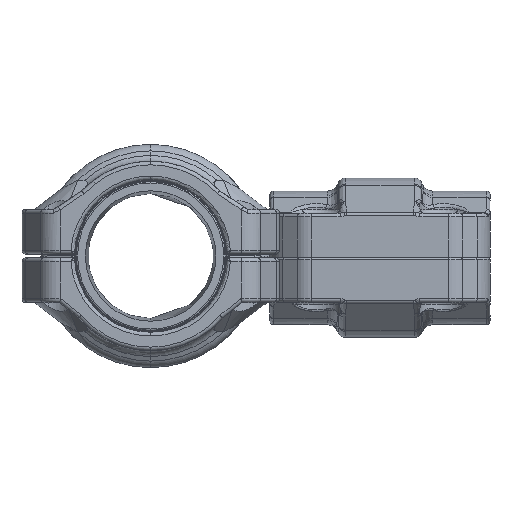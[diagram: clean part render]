
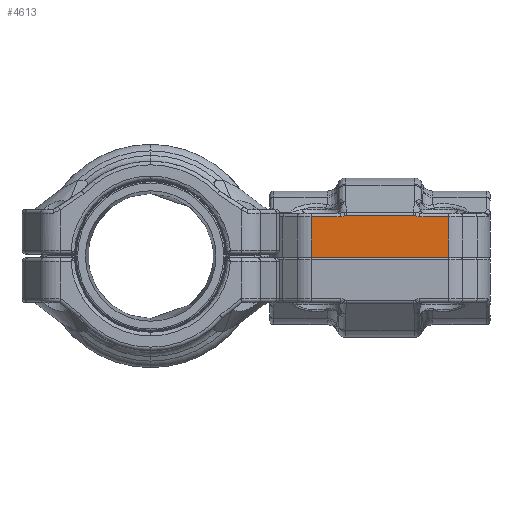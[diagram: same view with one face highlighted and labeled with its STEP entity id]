
A CAD part, left-side view. The second image highlights one B-rep face of the part: STEP entity #4613.
In plain terms, the highlighted planar face has unit normal (-1, 0, 0).
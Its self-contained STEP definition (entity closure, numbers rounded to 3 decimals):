
#787=PLANE('',#33667);
#2799=B_SPLINE_CURVE_WITH_KNOTS('',3,(#70740,#70741,#70742,#70743,#70744,
#70745),.UNSPECIFIED.,.F.,.F.,(4,1,1,4),(0.,0.333,0.667,
1.),.UNSPECIFIED.);
#2800=B_SPLINE_CURVE_WITH_KNOTS('',3,(#70747,#70748,#70749,#70750,#70751,
#70752,#70753),.UNSPECIFIED.,.F.,.F.,(4,1,1,1,4),(0.,0.,
0.333,0.666,1.),.UNSPECIFIED.);
#2801=B_SPLINE_CURVE_WITH_KNOTS('',3,(#70754,#70755,#70756,#70757,#70758,
#70759,#70760),.UNSPECIFIED.,.F.,.F.,(4,1,1,1,4),(0.,0.334,0.667,
1.,1.),.UNSPECIFIED.);
#2802=B_SPLINE_CURVE_WITH_KNOTS('',3,(#70762,#70763,#70764,#70765,#70766,
#70767),.UNSPECIFIED.,.F.,.F.,(4,1,1,4),(0.,0.333,0.667,
1.),.UNSPECIFIED.);
#4613=ADVANCED_FACE('',(#7153),#787,.F.);
#7153=FACE_OUTER_BOUND('',#9118,.T.);
#9118=EDGE_LOOP('',(#19669,#19670,#19671,#19672,#19673,#19674,#19675,#19676,
#19677,#19678));
#10635=LINE('',#70733,#12011);
#10636=LINE('',#70735,#12012);
#10637=LINE('',#70738,#12013);
#10638=LINE('',#70769,#12014);
#10639=LINE('',#70771,#12015);
#10640=LINE('',#70773,#12016);
#12011=VECTOR('',#40682,1.);
#12012=VECTOR('',#40685,1.);
#12013=VECTOR('',#40686,1.);
#12014=VECTOR('',#40687,1.);
#12015=VECTOR('',#40688,1.);
#12016=VECTOR('',#40689,1.);
#19669=ORIENTED_EDGE('',*,*,#28292,.T.);
#19670=ORIENTED_EDGE('',*,*,#28293,.F.);
#19671=ORIENTED_EDGE('',*,*,#28294,.F.);
#19672=ORIENTED_EDGE('',*,*,#28295,.F.);
#19673=ORIENTED_EDGE('',*,*,#28291,.T.);
#19674=ORIENTED_EDGE('',*,*,#28296,.F.);
#19675=ORIENTED_EDGE('',*,*,#28297,.T.);
#19676=ORIENTED_EDGE('',*,*,#28298,.T.);
#19677=ORIENTED_EDGE('',*,*,#28299,.T.);
#19678=ORIENTED_EDGE('',*,*,#28300,.T.);
#24000=VERTEX_POINT('',#70730);
#24001=VERTEX_POINT('',#70732);
#24002=VERTEX_POINT('',#70736);
#24003=VERTEX_POINT('',#70737);
#24004=VERTEX_POINT('',#70739);
#24005=VERTEX_POINT('',#70746);
#24006=VERTEX_POINT('',#70761);
#24007=VERTEX_POINT('',#70768);
#24008=VERTEX_POINT('',#70770);
#24009=VERTEX_POINT('',#70772);
#28291=EDGE_CURVE('',#24000,#24001,#10635,.T.);
#28292=EDGE_CURVE('',#24002,#24003,#10636,.T.);
#28293=EDGE_CURVE('',#24004,#24003,#10637,.T.);
#28294=EDGE_CURVE('',#24005,#24004,#2799,.T.);
#28295=EDGE_CURVE('',#24000,#24005,#2800,.T.);
#28296=EDGE_CURVE('',#24006,#24001,#2801,.T.);
#28297=EDGE_CURVE('',#24006,#24007,#2802,.T.);
#28298=EDGE_CURVE('',#24007,#24008,#10638,.T.);
#28299=EDGE_CURVE('',#24008,#24009,#10639,.T.);
#28300=EDGE_CURVE('',#24009,#24002,#10640,.T.);
#33667=AXIS2_PLACEMENT_3D('',#70774,#40690,#40691);
#40682=DIRECTION('',(0.,1.,0.));
#40685=DIRECTION('',(0.,0.,1.));
#40686=DIRECTION('',(0.,-1.,0.));
#40687=DIRECTION('',(0.,1.,0.));
#40688=DIRECTION('',(0.,0.,-1.));
#40689=DIRECTION('',(0.,-1.,0.));
#40690=DIRECTION('',(1.,0.,0.));
#40691=DIRECTION('',(0.,1.,0.));
#70730=CARTESIAN_POINT('',(35.,-10.532,-11.195));
#70732=CARTESIAN_POINT('',(35.,7.532,-11.195));
#70733=CARTESIAN_POINT('',(35.,-10.532,-11.195));
#70735=CARTESIAN_POINT('',(35.,-19.941,-22.35));
#70736=CARTESIAN_POINT('',(35.,-19.941,-22.35));
#70737=CARTESIAN_POINT('',(35.,-19.941,-11.55));
#70738=CARTESIAN_POINT('',(35.,-12.208,-11.55));
#70739=CARTESIAN_POINT('',(35.,-12.208,-11.55));
#70740=CARTESIAN_POINT('',(35.,-10.868,-11.259));
#70741=CARTESIAN_POINT('',(35.,-11.024,-11.323));
#70742=CARTESIAN_POINT('',(35.,-11.332,-11.43));
#70743=CARTESIAN_POINT('',(35.,-11.759,-11.526));
#70744=CARTESIAN_POINT('',(35.,-12.058,-11.549));
#70745=CARTESIAN_POINT('',(35.,-12.208,-11.55));
#70746=CARTESIAN_POINT('',(35.,-10.868,-11.259));
#70747=CARTESIAN_POINT('',(35.,-10.532,-11.195));
#70748=CARTESIAN_POINT('',(35.,-10.532,-11.195));
#70749=CARTESIAN_POINT('',(35.,-10.57,-11.195));
#70750=CARTESIAN_POINT('',(35.,-10.646,-11.2));
#70751=CARTESIAN_POINT('',(35.,-10.759,-11.221));
#70752=CARTESIAN_POINT('',(35.,-10.832,-11.245));
#70753=CARTESIAN_POINT('',(35.,-10.868,-11.259));
#70754=CARTESIAN_POINT('',(35.,7.868,-11.259));
#70755=CARTESIAN_POINT('',(35.,7.832,-11.245));
#70756=CARTESIAN_POINT('',(35.,7.759,-11.221));
#70757=CARTESIAN_POINT('',(35.,7.646,-11.2));
#70758=CARTESIAN_POINT('',(35.,7.57,-11.195));
#70759=CARTESIAN_POINT('',(35.,7.532,-11.195));
#70760=CARTESIAN_POINT('',(35.,7.532,-11.195));
#70761=CARTESIAN_POINT('',(35.,7.868,-11.259));
#70762=CARTESIAN_POINT('',(35.,7.868,-11.259));
#70763=CARTESIAN_POINT('',(35.,8.019,-11.321));
#70764=CARTESIAN_POINT('',(35.,8.32,-11.426));
#70765=CARTESIAN_POINT('',(35.,8.747,-11.525));
#70766=CARTESIAN_POINT('',(35.,9.053,-11.548));
#70767=CARTESIAN_POINT('',(35.,9.208,-11.55));
#70768=CARTESIAN_POINT('',(35.,9.208,-11.55));
#70769=CARTESIAN_POINT('',(35.,9.208,-11.55));
#70770=CARTESIAN_POINT('',(35.,16.941,-11.55));
#70771=CARTESIAN_POINT('',(35.,16.941,-11.55));
#70772=CARTESIAN_POINT('',(35.,16.941,-22.35));
#70773=CARTESIAN_POINT('',(35.,16.941,-22.35));
#70774=CARTESIAN_POINT('',(35.,-1.5,-22.55));
